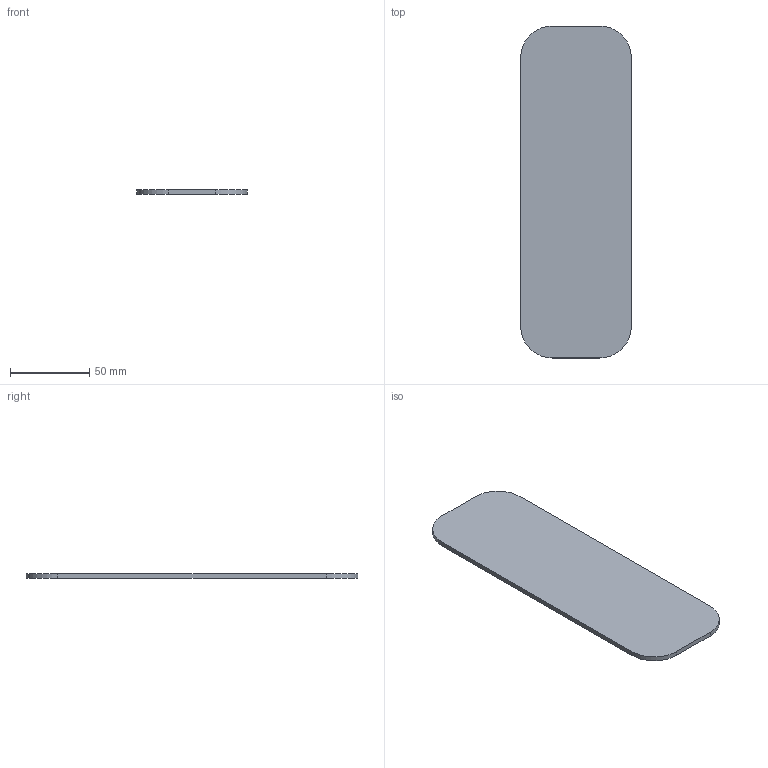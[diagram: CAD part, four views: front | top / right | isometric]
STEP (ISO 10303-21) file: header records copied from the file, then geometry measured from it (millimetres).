
FILE_DESCRIPTION(/* description */ (''),/* implementation_level */ '2;1');
FILE_NAME(/* name */ 'C:\Users\user\Desktop\Ensamble-reductor-sin-engranes-V2022\GlassCover.stp',/* time_stamp */ '2023-02-15T20:28:57-05:00',/* author */ ('user'),/* organization */ (''),/* preprocessor_version */ 'ST-DEVELOPER v18.1',/* originating_system */ 'Autodesk Inventor 2022',/* authorisation */ '');
FILE_SCHEMA (('AUTOMOTIVE_DESIGN { 1 0 10303 214 3 1 1 }'));
Length unit declared in the file: millimetre
Products named in the file (1): GlassCover
Bounding box: 70 x 210 x 3 mm (x, y, z)
Volume: 43069.9 mm3; surface area: 30290.3 mm2
Topology: 1 solids, 1 shells, 10 faces, 24 edges, 16 vertices
Faces by surface type: plane 6, cylinder 4
Entity records: 337 total; most frequent: DIRECTION 54, CARTESIAN_POINT 51, ORIENTED_EDGE 48, EDGE_CURVE 24, AXIS2_PLACEMENT_3D 19, LINE 16, VECTOR 16, VERTEX_POINT 16
